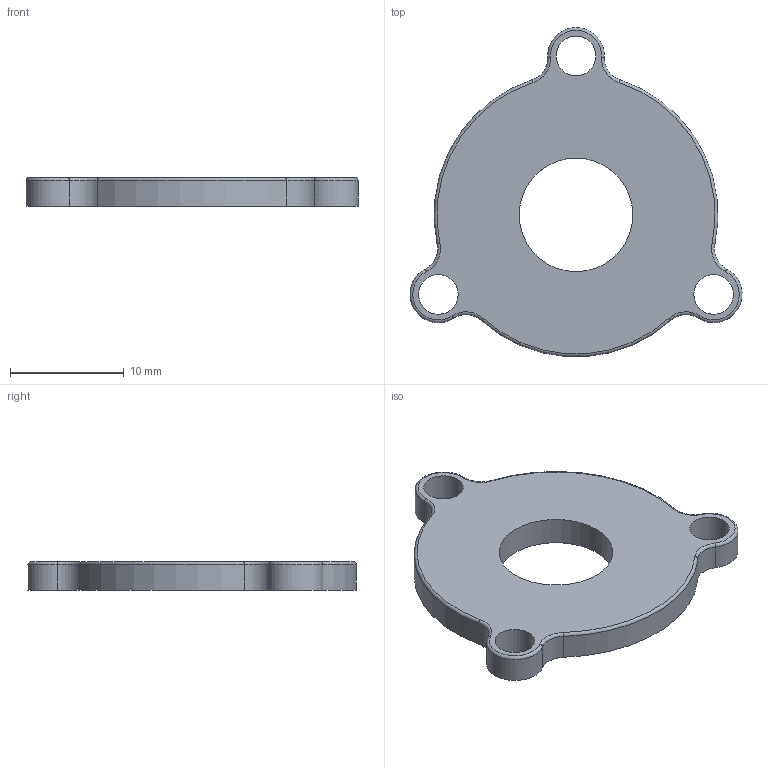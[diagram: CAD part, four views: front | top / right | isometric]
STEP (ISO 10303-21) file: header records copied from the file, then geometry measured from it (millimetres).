
FILE_DESCRIPTION(/* description */ ('Alibre Inc.'),/* implementation_level */ '2;1');
FILE_NAME(/* name */ 'export-36E95F7A-0970-4884-979B-47F1275905C1',/* time_stamp */ '2020-08-19T17:24:14-05:00',/* author */ (''),/* organization */ (''),/* preprocessor_version */ 'ST-DEVELOPER v17',/* originating_system */ 'Alibre',/* authorisation */ '');
FILE_SCHEMA (('AUTOMOTIVE_DESIGN'));
Length unit declared in the file: millimetre
Bounding box: 29.24 x 28.95 x 2.5 mm (x, y, z)
Volume: 1096.8 mm3; surface area: 1266.8 mm2
Topology: 1 solids, 2 shells, 33 faces, 76 edges, 47 vertices
Faces by surface type: cylinder 17, torus 12, plane 4
Full cylindrical faces by diameter (mm): 0.27 x1, 3.5 x3, 10 x1
Entity records: 918 total; most frequent: DIRECTION 170, CARTESIAN_POINT 145, ORIENTED_EDGE 140, AXIS2_PLACEMENT_3D 87, EDGE_CURVE 70, CIRCLE 56, VERTEX_POINT 46, EDGE_LOOP 46
